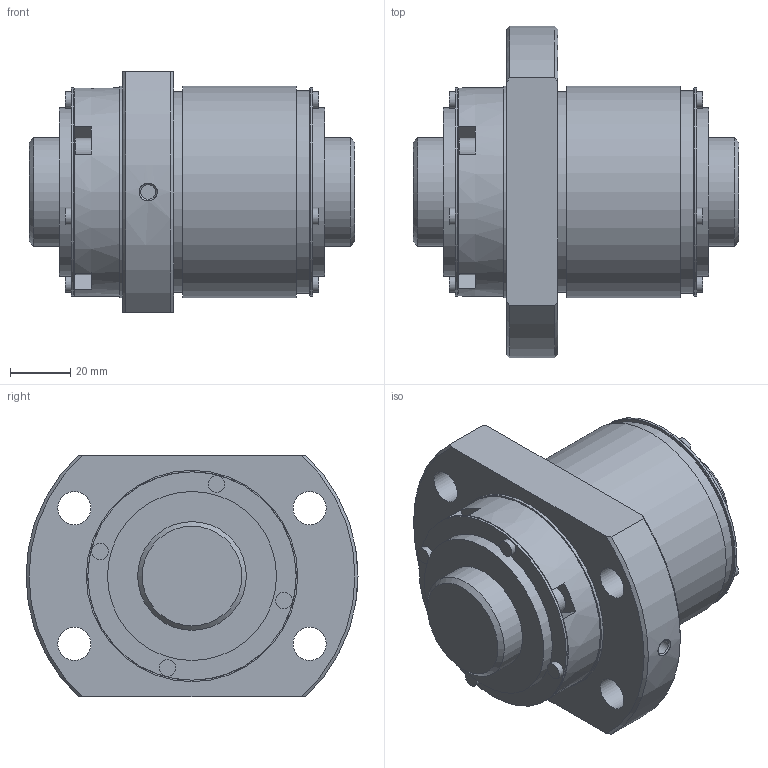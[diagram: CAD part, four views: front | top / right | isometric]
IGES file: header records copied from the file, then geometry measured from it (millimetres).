
Start section: Data from Parasolid IGES Translator 26.0.171, Copyright(c) 2006 Siemens PLM Software. All Rights Reserved.
Global section: file name: BLK3620-5.6ZZG1+108LC3_0_1300.igs; native system: By Siemens PLM Incorporated; preprocessor: XPlus GENERIC/IGES 26.0.171; author: Noname; organization: Noname; date: 20250116.070500; units: millimetre
Bounding box: 108 x 110 x 80 mm (x, y, z)
Surface area: 64386.9 mm2 (no closed solid volume)
Topology: 0 solids, 0 shells, 156 faces, 704 edges, 635 vertices
Faces by surface type: extrusion 95, revolution 61
